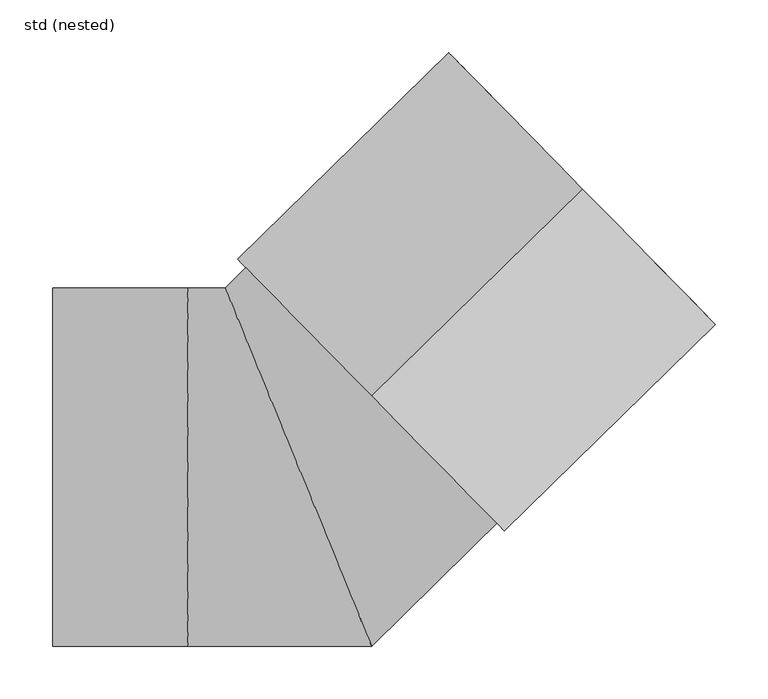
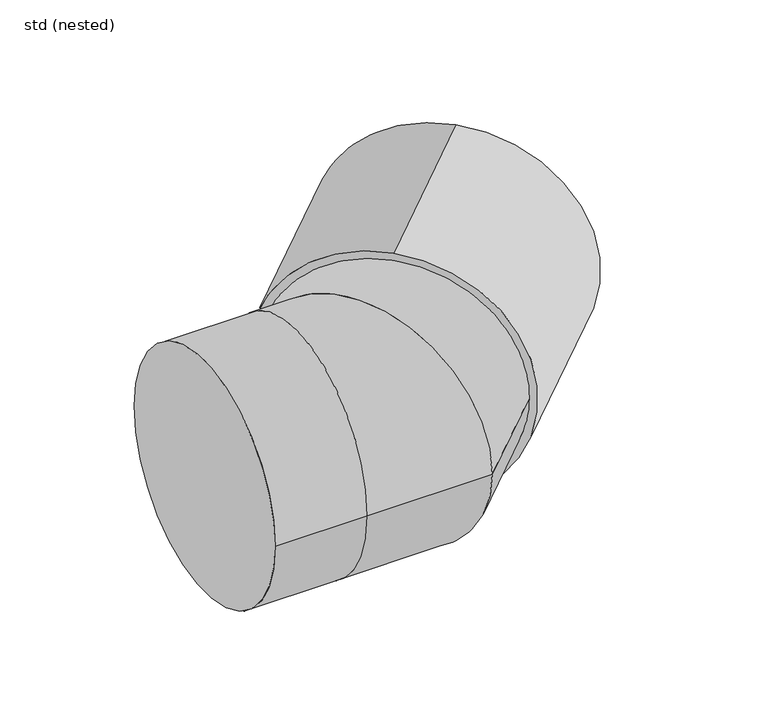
"""IFC4 building model written with IfcOpenShell, lengths in millimetres: pipe fitting geometry, NLRS_52_PIF_WPB_Ultra Kyma bocht 1MV SH_Dyka : std (nested)."""

from ifc_helpers import new_model, si_unit, point, frame, origin, origin_2d, place, context, project, spatial, circle_curve, ellipse_curve, trimmed, segment, composite_curve, outline, extrude, source, transform, mapped, element, save
from ifc_brep_helpers import plane_surface, cylinder_surface, advanced_brep


def std_nested_0e19126a(model_context):
    return source(origin(), model_context, "Body", "SolidModel", [
        advanced_brep(
        [(-104.9507132, -170.0, 0.0), (69.4226508, -170.0, 0.0), (-69.4226508, 170.0, 0.0), (-104.9507132, 170.0, 0.0), (193.9498966, -47.9383962, 0.0), (74.9496538, 73.4656492, 170.0), (-44.050589, 194.8696945, 0.0), (74.9496538, 73.4656492, -170.0), (169.251522, 165.9003385, -170.0), (169.251522, 165.9003385, 170.0), (-233.0, -170.0, 0.0), (-233.0, 170.0, 0.0)],
        [
            (0, 1),
            (1, 2, ellipse_curve(frame((0.0, 0.0, 0.0), z_axis=(-0.9257811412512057, -0.3780598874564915, 0.0), x_axis=(-0.37805988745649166, 0.9257811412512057, 0.0)), 183.6287136, 170.0)),
            (2, 3),
            (3, 0, circle_curve(frame((-104.9507132, 0.0, 0.0), z_axis=(1.0, 0.0, 0.0), x_axis=(0.0, 1.0, 0.0)), 170.0)),
            (0, 3, circle_curve(frame((-104.9507132, 0.0, 0.0), z_axis=(1.0, 0.0, 0.0), x_axis=(0.0, 1.0, 0.0)), 170.0)),
            (2, 1, ellipse_curve(frame((0.0, 0.0, 0.0), z_axis=(-0.9257811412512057, -0.3780598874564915, 0.0), x_axis=(-0.37805988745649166, 0.9257811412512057, 0.0)), 183.6287136, 170.0)),
            (1, 4),
            (4, 5, circle_curve(frame((74.9496538, 73.4656492, 0.0), z_axis=(-0.7141414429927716, -0.7000014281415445, 0.0), x_axis=(-0.7000014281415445, 0.7141414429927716, 0.0)), 170.0)),
            (5, 6, circle_curve(frame((74.9496538, 73.4656492, 0.0), z_axis=(-0.7141414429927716, -0.7000014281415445, 0.0), x_axis=(-0.7000014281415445, 0.7141414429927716, 0.0)), 170.0)),
            (6, 2),
            (6, 7, circle_curve(frame((74.9496538, 73.4656492, 0.0), z_axis=(-0.7141414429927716, -0.7000014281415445, 0.0), x_axis=(-0.7000014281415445, 0.7141414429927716, 0.0)), 170.0)),
            (7, 4, circle_curve(frame((74.9496538, 73.4656492, 0.0), z_axis=(-0.7141414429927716, -0.7000014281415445, 0.0), x_axis=(-0.7000014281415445, 0.7141414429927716, 0.0)), 170.0)),
            (8, 9, circle_curve(frame((169.251522, 165.9003385, 0.0), z_axis=(0.714141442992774, 0.7000014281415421, 0.0), x_axis=(0.0, 0.0, 1.0)), 170.0)),
            (9, 8, circle_curve(frame((169.251522, 165.9003385, 0.0), z_axis=(0.714141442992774, 0.7000014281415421, 0.0), x_axis=(0.0, 0.0, 1.0)), 170.0)),
            (8, 7),
            (5, 9),
            (10, 11, circle_curve(frame((-233.0, 0.0, 0.0), z_axis=(-1.0, 0.0, 0.0), x_axis=(0.0, 1.0, 0.0)), 170.0)),
            (11, 10, circle_curve(frame((-233.0, 0.0, 0.0), z_axis=(-1.0, 0.0, 0.0), x_axis=(0.0, 1.0, 0.0)), 170.0)),
            (10, 0),
            (3, 11),
        ],
        [
            cylinder_surface(frame((-104.9507132, 0.0, 0.0), z_axis=(-1.0, 0.0, 0.0), x_axis=(0.0, 1.0, 0.0)), 170.0),
            cylinder_surface(frame((0.0, 0.0, 0.0), z_axis=(-0.7141414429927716, -0.7000014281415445, 0.0), x_axis=(-0.7000014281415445, 0.7141414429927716, 0.0)), 170.0),
            plane_surface(frame((169.251522, 165.9003385, 170.0), z_axis=(0.7141414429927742, 0.700001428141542, 0.0), x_axis=(0.700001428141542, -0.7141414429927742, 0.0))),
            cylinder_surface(frame((74.9496538, 73.4656492, 0.0), z_axis=(0.714141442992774, 0.7000014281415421, 0.0), x_axis=(0.0, 0.0, 1.0)), 170.0),
            plane_surface(frame((-233.0, 170.0, 0.0), z_axis=(-1.0, 0.0, 0.0), x_axis=(0.0, 0.0, -1.0))),
        ],
        [
            (0, [[1, 2, 3, 4]]),
            (0, [[-1, 5, -3, 6]]),
            (1, [[-2, 7, 8, 9, 10]]),
            (1, [[-6, -10, 11, 12, -7]]),
            (2, [[13, 14]]),
            (3, [[-13, 15, -11, -9, 16]]),
            (3, [[-14, -16, -8, -12, -15]]),
            (4, [[17, 18]]),
            (0, [[-17, 19, -4, 20]]),
            (0, [[-18, -20, -5, -19]]),
        ],
    ),
        extrude(outline(composite_curve([segment(trimmed(circle_curve(origin_2d(), 181.0), [point((-181.0, 0.0))], [point((181.0, 0.0))], False, "CARTESIAN"), True, "CONTINUOUS"), segment(trimmed(circle_curve(origin_2d(), 181.0), [point((181.0, 0.0))], [point((-181.0, 0.0))], False, "CARTESIAN"), True, "CONTINUOUS")], self_intersect=False), holes=[composite_curve([segment(trimmed(circle_curve(origin_2d(), 170.0), [point((170.0, 0.0))], [point((-170.0, 0.0))], True, "CARTESIAN"), True, "CONTINUOUS"), segment(trimmed(circle_curve(origin_2d(), 170.0), [point((-170.0, 0.0))], [point((170.0, 0.0))], True, "CARTESIAN"), True, "CONTINUOUS")], self_intersect=False)]), frame((69.27172, 67.9001385, 0.0), z_axis=(0.714141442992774, 0.7000014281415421, 0.0), x_axis=(0.0, 0.0, 1.0)), (0.0, 0.0, 1.0), 280.0),
    ])


if __name__ == "__main__":
    model = new_model("IFC4")
    model_context = context("Model", 3, world=origin())
    ifc_project = project(units=[si_unit("LENGTHUNIT", "METRE", prefix="MILLI")], contexts=[model_context])
    site = spatial("IfcSite", under=ifc_project)
    building = spatial("IfcBuilding", under=site)
    placement = place(None, origin())
    std_nested_shape = std_nested_0e19126a(model_context)
    element("IfcPipeFitting", 1, ObjectType="NLRS_52_PIF_WPB_Ultra Kyma bocht 1MV SH_Dyka : std (nested)", at=placement, inside=building, context=model_context, shape_type="MappedRepresentation", body=[
        mapped(std_nested_shape, transform((0.0, 0.0, 0.0), x_axis=(1.0, 0.0, 0.0), y_axis=(0.0, 1.0, 0.0), z_axis=(0.0, 0.0, 1.0))),
    ])
    save(model, "model.ifc")
